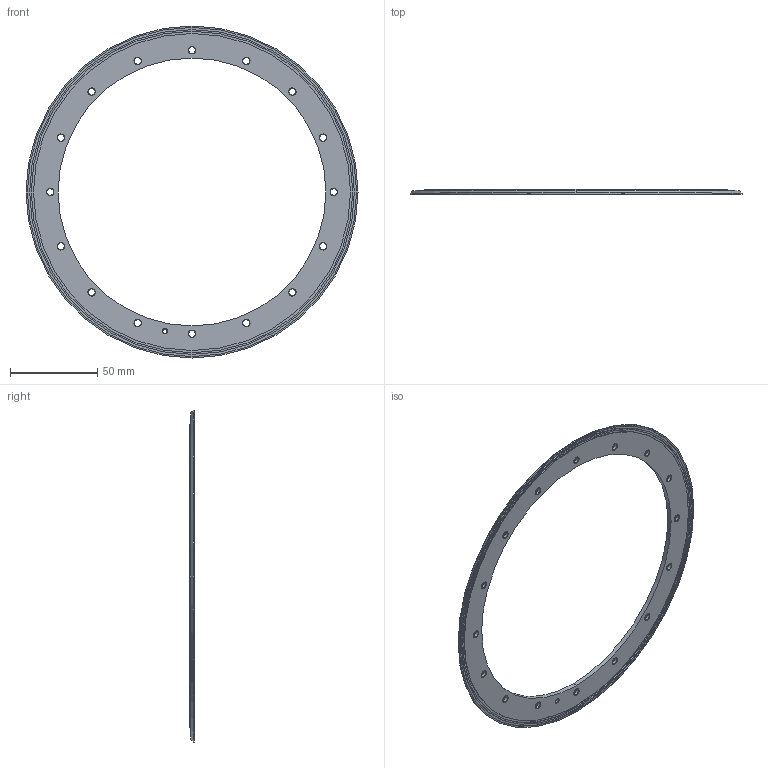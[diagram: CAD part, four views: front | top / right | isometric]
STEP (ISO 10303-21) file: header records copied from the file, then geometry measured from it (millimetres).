
FILE_DESCRIPTION (( 'STEP AP214' ), '1' );
FILE_NAME ('0020-79096_çàæèì ìåìáðàíû.STEP', '2026-03-23T11:58:37', ( '' ), ( '' ), 'SwSTEP 2.0', 'SolidWorks 2022', '' );
FILE_SCHEMA (( 'AUTOMOTIVE_DESIGN' ));
Length unit declared in the file: millimetre
Products named in the file (1): 0020-79096_зажим мембраны
Bounding box: 190.5 x 2.65 x 190.5 mm (x, y, z)
Volume: 21549.3 mm3; surface area: 23555.8 mm2
Topology: 1 solids, 1 shells, 381 faces, 882 edges, 526 vertices
Faces by surface type: cone 179, cylinder 157, plane 43, torus 2
Entity records: 11130 total; most frequent: CARTESIAN_POINT 2172, DIRECTION 2056, ORIENTED_EDGE 1764, AXIS2_PLACEMENT_3D 910, EDGE_CURVE 882, CIRCLE 528, VERTEX_POINT 526, EDGE_LOOP 440
